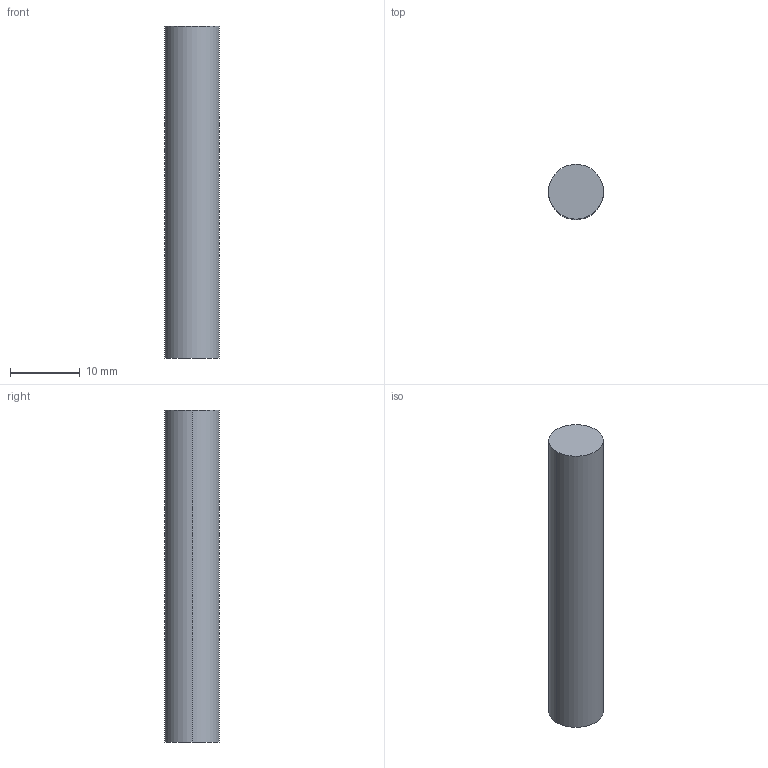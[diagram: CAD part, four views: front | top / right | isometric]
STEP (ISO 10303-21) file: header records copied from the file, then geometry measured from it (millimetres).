
FILE_DESCRIPTION(('CATIA V5 STEP Exchange'),'2;1');
FILE_NAME('C:\Users\Administrator\Desktop\faxin1.stp','2021-06-07T03:25:25+00:00',('none'),('none'),'CATIA Version 5 Release 20 GA (IN-10)','CATIA V5 STEP AP214','none');
FILE_SCHEMA(('AUTOMOTIVE_DESIGN { 1 0 10303 214 1 1 1 1 }'));
Length unit declared in the file: millimetre
Products named in the file (1): BPC0010083-faxin
Bounding box: 7.85 x 7.85 x 47.5 mm (x, y, z)
Volume: 2107.2 mm3; surface area: 1477.9 mm2
Topology: 1 solids, 1 shells, 15 faces, 30 edges, 20 vertices
Faces by surface type: cylinder 8, plane 5, torus 2
Entity records: 416 total; most frequent: CARTESIAN_POINT 65, ORIENTED_EDGE 60, DIRECTION 58, AXIS2_PLACEMENT_3D 37, EDGE_CURVE 30, CIRCLE 22, VERTEX_POINT 20, EDGE_LOOP 18
